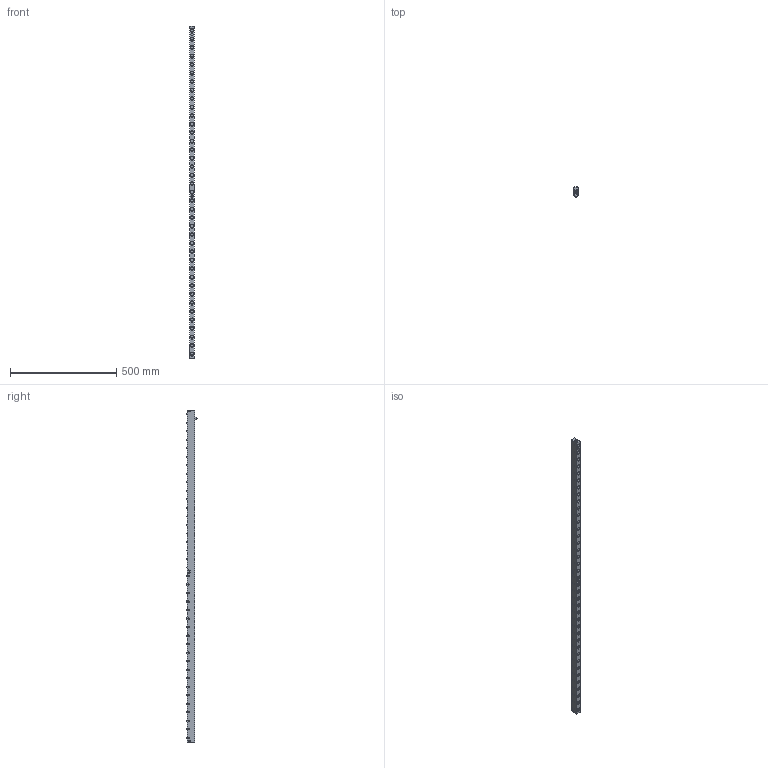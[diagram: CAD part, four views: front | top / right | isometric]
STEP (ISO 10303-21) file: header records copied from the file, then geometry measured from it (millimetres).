
FILE_DESCRIPTION(/* description */ (''),/* implementation_level */ '2;1');
FILE_NAME(/* name */ 'S:\EASCN Vault\Designs\Standard Part\DIE LIFTERS\EHR\EHR- 3D step\EHR22 - 3D step complete serie\EHR22-39.stp',/* time_stamp */ '2019-07-31T11:08:08+08:00',/* author */ ('yue.yang'),/* organization */ (''),/* preprocessor_version */ 'ST-DEVELOPER v17',/* originating_system */ 'Autodesk Inventor 2019',/* authorisation */ '');
FILE_SCHEMA (('AUTOMOTIVE_DESIGN { 1 0 10303 214 3 1 1 }'));
Length unit declared in the file: millimetre
Products named in the file (1): EHR22-39_Shrinkwrap_1
Bounding box: 21.8 x 48.05 x 1560 mm (x, y, z)
Volume: 954711.5 mm3; surface area: 285679 mm2
Topology: 1 solids, 1 shells, 941 faces, 2642 edges, 1765 vertices
Faces by surface type: cylinder 402, plane 249, cone 151, torus 98, sphere 41
Full cylindrical faces by diameter (mm): 2.459 x8, 4 x12, 5 x80, 6 x41, 10 x6, 12.5 x40, 16 x59
Entity records: 36049 total; most frequent: CARTESIAN_POINT 10598, DIRECTION 5270, ORIENTED_EDGE 5188, EDGE_CURVE 2594, AXIS2_PLACEMENT_3D 2279, VERTEX_POINT 1765, CIRCLE 1337, EDGE_LOOP 1195
